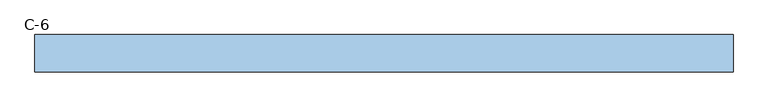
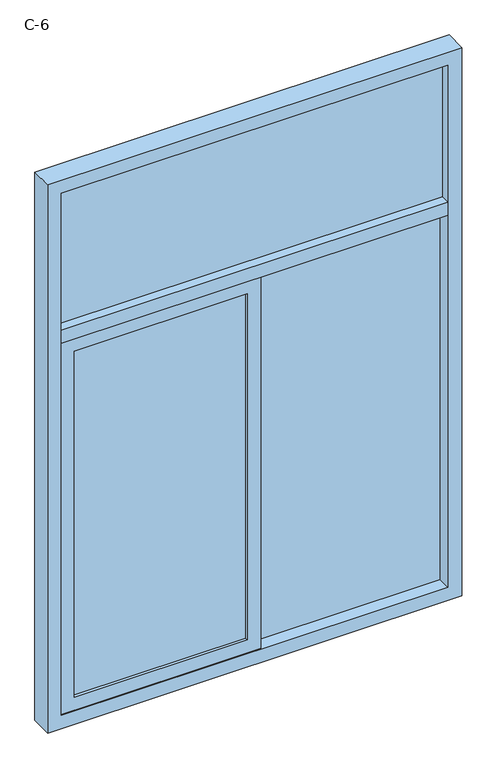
"""IFC4 building model written with IfcOpenShell, lengths in millimetres: window geometry, 组合窗 - 双层单列(固定+推拉) : C-6."""

from ifc_helpers import new_model, si_unit, frame, origin, place, context, project, spatial, polyline, outline, extrude, source, transform, mapped, element, save


def c_6_b548e64d(model_context):
    return source(origin(), model_context, "Body", "SweptSolid", [
        extrude(outline(polyline([(700.0, 10.0), (-700.0, 10.0), (-700.0, 20.0), (700.0, 20.0), (700.0, 10.0)])), frame((0.0, 0.0, 2425.0), z_axis=(0.0, 0.0, 1.0), x_axis=(1.0, 0.0, 0.0)), (0.0, 0.0, 1.0), 525.0),
        extrude(outline(polyline([(-650.0, 0.0), (-25.0, 0.0), (-25.0, -10.0), (-650.0, -10.0), (-650.0, 0.0)])), frame((0.0, 0.0, 1000.0), z_axis=(0.0, 0.0, 1.0), x_axis=(1.0, 0.0, 0.0)), (0.0, 0.0, 1.0), 1325.0),
        extrude(outline(polyline([(25.0, 35.0), (700.0, 35.0), (700.0, 25.0), (25.0, 25.0), (25.0, 35.0)])), frame((0.0, 0.0, 950.0), z_axis=(0.0, 0.0, 1.0), x_axis=(1.0, 0.0, 0.0)), (0.0, 0.0, 1.0), 1425.0),
        extrude(outline(polyline([(25.0, 45.0), (25.0, 15.0), (-25.0, 15.0), (-25.0, 45.0), (25.0, 45.0)])), frame((0.0, 0.0, 950.0), z_axis=(0.0, 0.0, 1.0), x_axis=(1.0, 0.0, 0.0)), (0.0, 0.0, 1.0), 1425.0),
        extrude(outline(polyline([(2375.0, 25.0), (2375.0, -700.0), (950.0, -700.0), (950.0, 25.0), (2375.0, 25.0)]), holes=[polyline([(1000.0, -25.0), (1000.0, -650.0), (2325.0, -650.0), (2325.0, -25.0), (1000.0, -25.0)])]), frame((0.0, -20.0, 0.0), z_axis=(0.0, 1.0, 0.0), x_axis=(0.0, 0.0, 1.0)), (0.0, 0.0, 1.0), 30.0),
        extrude(outline(polyline([(-700.0, 55.0), (700.0, 55.0), (700.0, -25.0), (-700.0, -25.0), (-700.0, 55.0)])), frame((0.0, 0.0, 2375.0), z_axis=(0.0, 0.0, 1.0), x_axis=(1.0, 0.0, 0.0)), (0.0, 0.0, 1.0), 50.0),
        extrude(outline(polyline([(3000.0, -750.0), (900.0, -750.0), (900.0, 750.0), (3000.0, 750.0), (3000.0, -750.0)]), holes=[polyline([(2950.0, 700.0), (950.0, 700.0), (950.0, -700.0), (2950.0, -700.0), (2950.0, 700.0)])]), frame((0.0, -25.0, 0.0), z_axis=(0.0, 1.0, 0.0), x_axis=(0.0, 0.0, 1.0)), (0.0, 0.0, 1.0), 80.0),
    ])


if __name__ == "__main__":
    model = new_model("IFC4")
    model_context = context("Model", 3, world=origin())
    ifc_project = project(units=[si_unit("LENGTHUNIT", "METRE", prefix="MILLI")], contexts=[model_context])
    site = spatial("IfcSite", under=ifc_project)
    building = spatial("IfcBuilding", under=site)
    placement = place(None, origin())
    c_6_shape = c_6_b548e64d(model_context)
    element("IfcWindow", 1, ObjectType="组合窗 - 双层单列(固定+推拉) : C-6", at=placement, inside=building, context=model_context, shape_type="MappedRepresentation", body=[
        mapped(c_6_shape, transform((0.0, 0.0, 0.0), x_axis=(1.0, 0.0, 0.0), y_axis=(0.0, 1.0, 0.0), z_axis=(0.0, 0.0, 1.0))),
    ])
    save(model, "model.ifc")
